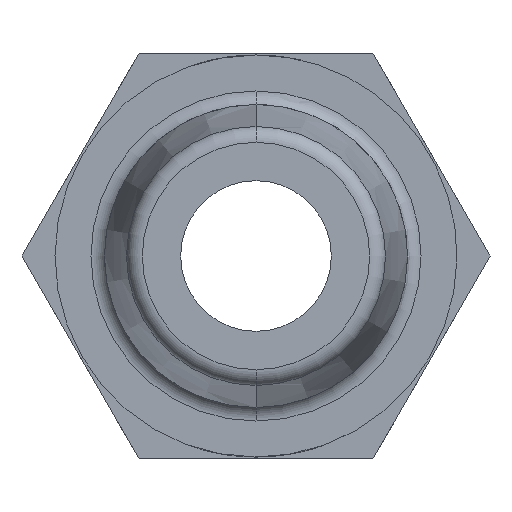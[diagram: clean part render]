
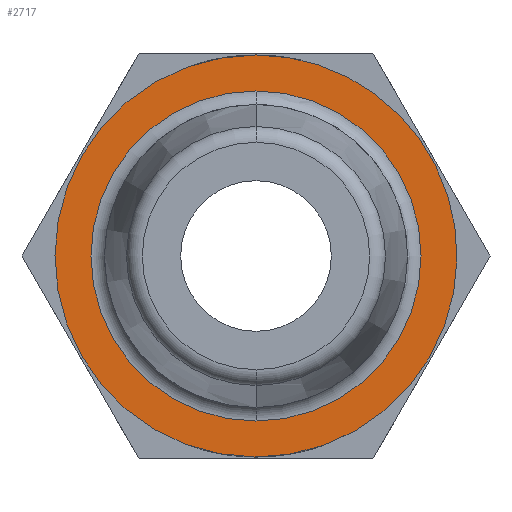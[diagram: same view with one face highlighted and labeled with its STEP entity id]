
A CAD part, left-side view. The second image highlights one B-rep face of the part: STEP entity #2717.
In plain terms, the highlighted planar face has unit normal (-1, 0, 0).
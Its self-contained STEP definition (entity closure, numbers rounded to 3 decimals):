
#60=PLANE('',#2976);
#167=FACE_BOUND('',#374,.T.);
#208=FACE_OUTER_BOUND('',#373,.T.);
#373=EDGE_LOOP('',(#2065,#2066));
#374=EDGE_LOOP('',(#2067,#2068));
#525=CIRCLE('',#2894,3.15);
#526=CIRCLE('',#2895,3.15);
#560=CIRCLE('',#2937,2.587);
#586=CIRCLE('',#2977,2.587);
#1171=VERTEX_POINT('',#4447);
#1172=VERTEX_POINT('',#4449);
#1278=VERTEX_POINT('',#5120);
#1279=VERTEX_POINT('',#5121);
#1460=EDGE_CURVE('',#1172,#1171,#525,.T.);
#1461=EDGE_CURVE('',#1171,#1172,#526,.T.);
#1570=EDGE_CURVE('',#1278,#1279,#560,.T.);
#1615=EDGE_CURVE('',#1279,#1278,#586,.T.);
#2065=ORIENTED_EDGE('',*,*,#1460,.T.);
#2066=ORIENTED_EDGE('',*,*,#1461,.T.);
#2067=ORIENTED_EDGE('',*,*,#1615,.T.);
#2068=ORIENTED_EDGE('',*,*,#1570,.T.);
#2717=ADVANCED_FACE('',(#208,#167),#60,.F.);
#2894=AXIS2_PLACEMENT_3D('',#4450,#3190,#3191);
#2895=AXIS2_PLACEMENT_3D('',#4451,#3192,#3193);
#2937=AXIS2_PLACEMENT_3D('',#5122,#3310,#3311);
#2976=AXIS2_PLACEMENT_3D('',#5213,#3406,#3407);
#2977=AXIS2_PLACEMENT_3D('',#5214,#3408,#3409);
#3190=DIRECTION('center_axis',(-1.,0.,0.));
#3191=DIRECTION('ref_axis',(0.,0.,1.));
#3192=DIRECTION('center_axis',(-1.,0.,0.));
#3193=DIRECTION('ref_axis',(0.,0.,1.));
#3310=DIRECTION('center_axis',(1.,0.,0.));
#3311=DIRECTION('ref_axis',(0.,0.,
1.));
#3406=DIRECTION('center_axis',(1.,0.,0.));
#3407=DIRECTION('ref_axis',(0.,0.,-1.));
#3408=DIRECTION('center_axis',(1.,0.,0.));
#3409=DIRECTION('ref_axis',(0.,0.,-1.));
#4447=CARTESIAN_POINT('',(-13.,-3.15,-0.03));
#4449=CARTESIAN_POINT('',(-13.,0.,3.15));
#4450=CARTESIAN_POINT('Origin',(-13.,0.,0.));
#4451=CARTESIAN_POINT('Origin',(-13.,0.,0.));
#5120=CARTESIAN_POINT('',(-13.,0.,2.587));
#5121=CARTESIAN_POINT('',(-13.,0.,-2.587));
#5122=CARTESIAN_POINT('Origin',(-13.,0.,0.));
#5213=CARTESIAN_POINT('Origin',(-13.,-3.188,0.));
#5214=CARTESIAN_POINT('Origin',(-13.,0.,0.));
